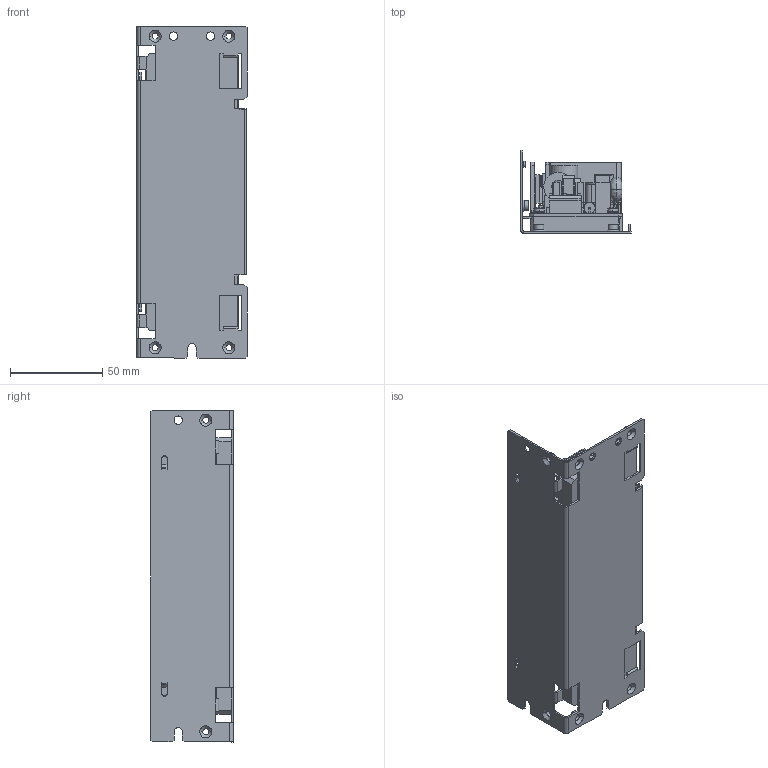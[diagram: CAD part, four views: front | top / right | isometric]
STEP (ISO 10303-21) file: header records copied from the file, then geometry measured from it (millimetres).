
FILE_DESCRIPTION (( 'STEP AP214' ), '1' );
FILE_NAME ('zws75baf_l_outline.STEP', '2015-08-31T01:03:19', ( 'tluser' ), ( '' ), 'SwSTEP 2.0', 'SolidWorks 2013', '' );
FILE_SCHEMA (( 'AUTOMOTIVE_DESIGN' ));
Length unit declared in the file: millimetre
Products named in the file (1): zws75baf_l_outline
Bounding box: 60 x 45 x 180 mm (x, y, z)
Volume: 143663.2 mm3; surface area: 78315.3 mm2
Topology: 1 solids, 2 shells, 1902 faces, 5275 edges, 3376 vertices
Faces by surface type: plane 1179, cylinder 549, cone 116, bspline 58
Entity records: 82854 total; most frequent: CARTESIAN_POINT 12456, ORIENTED_EDGE 10506, DIRECTION 10202, EDGE_CURVE 5253, VECTOR 3536, LINE 3536, VERTEX_POINT 3376, AXIS2_PLACEMENT_3D 3333
